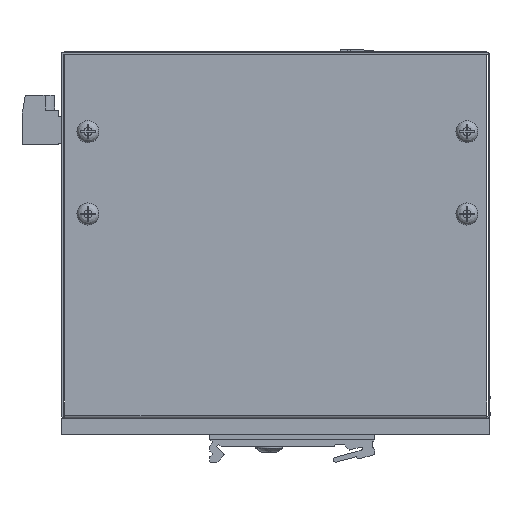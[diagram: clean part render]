
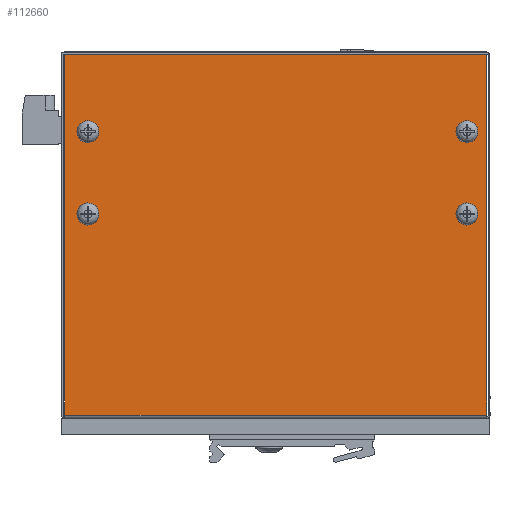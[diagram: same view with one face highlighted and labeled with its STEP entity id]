
A CAD part, left-side view. The second image highlights one B-rep face of the part: STEP entity #112660.
In plain terms, the highlighted planar face has unit normal (-1, 0, 0).
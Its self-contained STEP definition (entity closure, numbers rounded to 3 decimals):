
#1390=CIRCLE('',#117194,3.35);
#1401=CIRCLE('',#117231,3.35);
#1412=CIRCLE('',#117268,3.35);
#1423=CIRCLE('',#117305,3.35);
#5000=FACE_BOUND('',#14363,.T.);
#5001=FACE_BOUND('',#14364,.T.);
#5002=FACE_BOUND('',#14365,.T.);
#5003=FACE_BOUND('',#14366,.T.);
#8137=FACE_OUTER_BOUND('',#14362,.T.);
#14362=EDGE_LOOP('',(#81115,#81116,#81117,#81118));
#14363=EDGE_LOOP('',(#81119));
#14364=EDGE_LOOP('',(#81120));
#14365=EDGE_LOOP('',(#81121));
#14366=EDGE_LOOP('',(#81122));
#24873=LINE('',#157530,#37888);
#24877=LINE('',#157540,#37892);
#24884=LINE('',#157558,#37899);
#24886=LINE('',#157561,#37901);
#37888=VECTOR('',#131774,10.);
#37892=VECTOR('',#131784,0.72);
#37899=VECTOR('',#131803,10.);
#37901=VECTOR('',#131807,10.);
#45568=VERTEX_POINT('',#145980);
#45604=VERTEX_POINT('',#146203);
#45640=VERTEX_POINT('',#146426);
#45676=VERTEX_POINT('',#146649);
#49221=VERTEX_POINT('',#157528);
#49222=VERTEX_POINT('',#157529);
#49225=VERTEX_POINT('',#157538);
#49230=VERTEX_POINT('',#157557);
#56443=EDGE_CURVE('',#45568,#45568,#1390,.T.);
#56496=EDGE_CURVE('',#45604,#45604,#1401,.T.);
#56549=EDGE_CURVE('',#45640,#45640,#1412,.T.);
#56602=EDGE_CURVE('',#45676,#45676,#1423,.T.);
#61920=EDGE_CURVE('',#49221,#49222,#24873,.T.);
#61926=EDGE_CURVE('',#49225,#49222,#24877,.T.);
#61935=EDGE_CURVE('',#49221,#49230,#24884,.T.);
#61937=EDGE_CURVE('',#49230,#49225,#24886,.T.);
#81115=ORIENTED_EDGE('',*,*,#61920,.T.);
#81116=ORIENTED_EDGE('',*,*,#61926,.F.);
#81117=ORIENTED_EDGE('',*,*,#61937,.F.);
#81118=ORIENTED_EDGE('',*,*,#61935,.F.);
#81119=ORIENTED_EDGE('',*,*,#56443,.T.);
#81120=ORIENTED_EDGE('',*,*,#56496,.T.);
#81121=ORIENTED_EDGE('',*,*,#56549,.T.);
#81122=ORIENTED_EDGE('',*,*,#56602,.T.);
#106833=PLANE('',#119170);
#112660=ADVANCED_FACE('',(#8137,#5000,#5001,#5002,#5003),#106833,.F.);
#117194=AXIS2_PLACEMENT_3D('',#145981,#122523,#122524);
#117231=AXIS2_PLACEMENT_3D('',#146204,#122625,#122626);
#117268=AXIS2_PLACEMENT_3D('',#146427,#122727,#122728);
#117305=AXIS2_PLACEMENT_3D('',#146650,#122829,#122830);
#119170=AXIS2_PLACEMENT_3D('',#157562,#131808,#131809);
#122523=DIRECTION('center_axis',(1.,0.,0.));
#122524=DIRECTION('ref_axis',(0.,0.,1.));
#122625=DIRECTION('center_axis',(1.,0.,0.));
#122626=DIRECTION('ref_axis',(0.,0.,1.));
#122727=DIRECTION('center_axis',(1.,0.,0.));
#122728=DIRECTION('ref_axis',(0.,0.,1.));
#122829=DIRECTION('center_axis',(1.,0.,0.));
#122830=DIRECTION('ref_axis',(0.,0.,1.));
#131774=DIRECTION('',(0.,-1.,0.));
#131784=DIRECTION('',(0.,0.,-1.));
#131803=DIRECTION('',(0.,0.,1.));
#131807=DIRECTION('',(0.,-1.,0.));
#131808=DIRECTION('center_axis',(1.,0.,0.));
#131809=DIRECTION('ref_axis',(0.,0.,
	-1.));
#145980=CARTESIAN_POINT('',(-100.,-58.,58.65));
#145981=CARTESIAN_POINT('Origin',(-100.,-58.,62.));
#146203=CARTESIAN_POINT('',(-100.,57.,58.65));
#146204=CARTESIAN_POINT('Origin',(-100.,57.,62.));
#146426=CARTESIAN_POINT('',(-100.,-58.,83.65));
#146427=CARTESIAN_POINT('Origin',(-100.,-58.,87.));
#146649=CARTESIAN_POINT('',(-100.,57.,83.65));
#146650=CARTESIAN_POINT('Origin',(-100.,57.,87.));
#157528=CARTESIAN_POINT('',(-100.,64.,1.));
#157529=CARTESIAN_POINT('',(-100.,-64.,1.));
#157530=CARTESIAN_POINT('',(-100.,0.,1.));
#157538=CARTESIAN_POINT('',(-100.,-64.,110.4));
#157540=CARTESIAN_POINT('',(-100.,-64.,-1.262));
#157557=CARTESIAN_POINT('',(-100.,64.,110.4));
#157558=CARTESIAN_POINT('',(-100.,64.,1.));
#157561=CARTESIAN_POINT('',(-100.,64.,110.4));
#157562=CARTESIAN_POINT('Origin',(-100.,0.,
	55.135));
